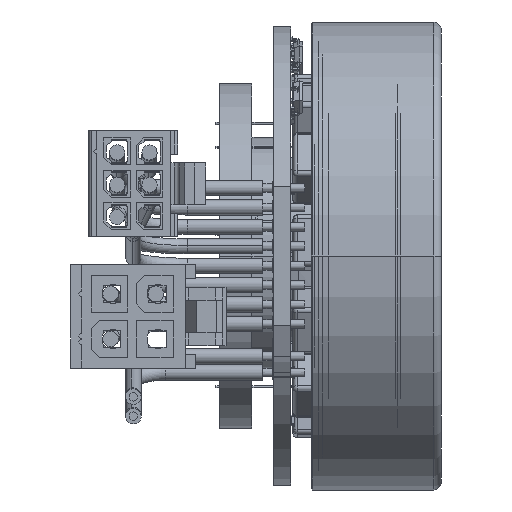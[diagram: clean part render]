
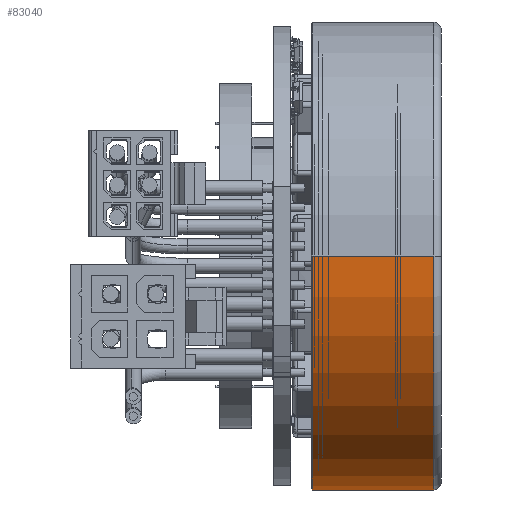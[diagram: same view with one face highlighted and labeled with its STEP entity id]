
A CAD part, front view. The second image highlights one B-rep face of the part: STEP entity #83040.
In plain terms, the highlighted cylindrical face has radius 21.7 mm (diameter 43.4 mm), a partial arc.
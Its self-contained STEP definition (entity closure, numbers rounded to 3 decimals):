
#82031=CARTESIAN_POINT('',(8.6,0.,0.));
#82032=DIRECTION('',(-1.,0.,0.));
#82033=DIRECTION('',(0.,1.,0.));
#82034=AXIS2_PLACEMENT_3D('',#82031,#82032,#82033);
#82039=DIRECTION('',(-1.,0.,0.));
#82040=VECTOR('',#82039,11.25);
#82041=CARTESIAN_POINT('',(19.85,-21.7,0.));
#82042=LINE('',#82041,#82040);
#82046=CARTESIAN_POINT('',(19.85,0.,0.));
#82047=DIRECTION('',(-1.,0.,0.));
#82048=DIRECTION('',(0.,1.,0.));
#82049=AXIS2_PLACEMENT_3D('',#82046,#82047,#82048);
#82054=DIRECTION('',(-1.,0.,0.));
#82055=VECTOR('',#82054,11.25);
#82056=CARTESIAN_POINT('',(19.85,21.7,0.));
#82057=LINE('',#82056,#82055);
#82879=CARTESIAN_POINT('',(19.85,21.7,0.));
#82880=CARTESIAN_POINT('',(19.85,-21.7,0.));
#82881=VERTEX_POINT('',#82879);
#82882=VERTEX_POINT('',#82880);
#82919=CARTESIAN_POINT('',(8.6,21.7,0.));
#82920=CARTESIAN_POINT('',(8.6,-21.7,0.));
#82921=VERTEX_POINT('',#82919);
#82922=VERTEX_POINT('',#82920);
#83026=CARTESIAN_POINT('',(-10.813,0.,0.));
#83027=DIRECTION('',(1.,0.,0.));
#83028=DIRECTION('',(0.,-1.,0.));
#83029=AXIS2_PLACEMENT_3D('',#83026,#83027,#83028);
#83030=CYLINDRICAL_SURFACE('',#83029,21.7);
#83031=ORIENTED_EDGE('',*,*,#83013,.T.);
#83033=ORIENTED_EDGE('',*,*,#83032,.F.);
#83035=ORIENTED_EDGE('',*,*,#83034,.F.);
#83037=ORIENTED_EDGE('',*,*,#83036,.T.);
#83038=EDGE_LOOP('',(#83031,#83033,#83035,#83037));
#83039=FACE_OUTER_BOUND('',#83038,.F.);
#83040=ADVANCED_FACE('',(#83039),#83030,.T.);
#82035=CIRCLE('',#82034,21.7);
#82050=CIRCLE('',#82049,21.7);
#83013=EDGE_CURVE('',#82921,#82922,#82035,.T.);
#83032=EDGE_CURVE('',#82882,#82922,#82042,.T.);
#83034=EDGE_CURVE('',#82881,#82882,#82050,.T.);
#83036=EDGE_CURVE('',#82881,#82921,#82057,.T.);
